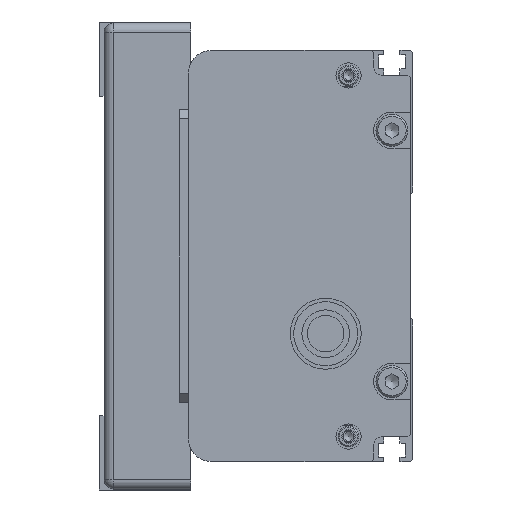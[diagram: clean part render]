
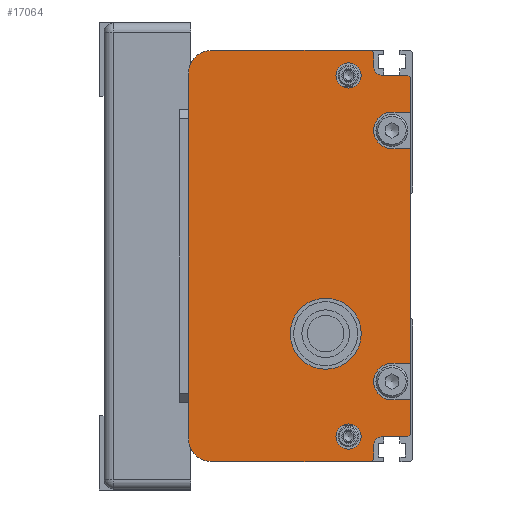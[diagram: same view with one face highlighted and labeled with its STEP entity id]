
A CAD part, left-side view. The second image highlights one B-rep face of the part: STEP entity #17064.
In plain terms, the highlighted planar face has unit normal (-1, 0, 0) as drawn and (0, 0, -1) by its records, which use the part's own axes.
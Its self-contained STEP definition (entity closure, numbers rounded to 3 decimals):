
#1088=FACE_BOUND('',#2518,.T.);
#1089=FACE_BOUND('',#2519,.T.);
#1090=FACE_BOUND('',#2520,.T.);
#1436=FACE_OUTER_BOUND('',#2517,.T.);
#2517=EDGE_LOOP('',(#11869,#11870,#11871,#11872,#11873,#11874,#11875,#11876,
#11877,#11878,#11879,#11880,#11881,#11882,#11883,#11884,#11885,#11886,#11887,
#11888,#11889,#11890,#11891,#11892));
#2518=EDGE_LOOP('',(#11893));
#2519=EDGE_LOOP('',(#11894));
#2520=EDGE_LOOP('',(#11895));
#3819=LINE('',#24749,#5317);
#3845=LINE('',#24816,#5343);
#3847=LINE('',#24821,#5345);
#3848=LINE('',#24823,#5346);
#3849=LINE('',#24826,#5347);
#3850=LINE('',#24828,#5348);
#3851=LINE('',#24830,#5349);
#3852=LINE('',#24834,#5350);
#3853=LINE('',#24836,#5351);
#3854=LINE('',#24838,#5352);
#3855=LINE('',#24842,#5353);
#3856=LINE('',#24844,#5354);
#3857=LINE('',#24846,#5355);
#3858=LINE('',#24848,#5356);
#3859=LINE('',#24852,#5357);
#3860=LINE('',#24854,#5358);
#3861=LINE('',#24855,#5359);
#3862=LINE('',#24856,#5360);
#5317=VECTOR('',#20112,80.);
#5343=VECTOR('',#20164,0.707);
#5345=VECTOR('',#20168,0.707);
#5346=VECTOR('',#20169,3.);
#5347=VECTOR('',#20172,5.5);
#5348=VECTOR('',#20173,7.5);
#5349=VECTOR('',#20174,4.);
#5350=VECTOR('',#20177,4.);
#5351=VECTOR('',#20178,47.);
#5352=VECTOR('',#20179,4.);
#5353=VECTOR('',#20182,4.);
#5354=VECTOR('',#20183,7.5);
#5355=VECTOR('',#20184,0.707);
#5356=VECTOR('',#20185,5.5);
#5357=VECTOR('',#20188,3.);
#5358=VECTOR('',#20189,0.707);
#5359=VECTOR('',#20190,35.);
#5360=VECTOR('',#20191,35.);
#6714=CIRCLE('',#18234,5.);
#6717=CIRCLE('',#18241,5.);
#6719=CIRCLE('',#18247,2.);
#6720=CIRCLE('',#18248,4.);
#6721=CIRCLE('',#18249,4.);
#6722=CIRCLE('',#18250,2.);
#6723=CIRCLE('',#18251,7.769);
#6724=CIRCLE('',#18252,2.75);
#6725=CIRCLE('',#18253,2.75);
#7329=VERTEX_POINT('',#24746);
#7330=VERTEX_POINT('',#24748);
#7331=VERTEX_POINT('',#24752);
#7334=VERTEX_POINT('',#24763);
#7357=VERTEX_POINT('',#24813);
#7358=VERTEX_POINT('',#24815);
#7359=VERTEX_POINT('',#24819);
#7360=VERTEX_POINT('',#24820);
#7361=VERTEX_POINT('',#24822);
#7362=VERTEX_POINT('',#24824);
#7363=VERTEX_POINT('',#24827);
#7364=VERTEX_POINT('',#24829);
#7365=VERTEX_POINT('',#24831);
#7366=VERTEX_POINT('',#24833);
#7367=VERTEX_POINT('',#24835);
#7368=VERTEX_POINT('',#24837);
#7369=VERTEX_POINT('',#24839);
#7370=VERTEX_POINT('',#24841);
#7371=VERTEX_POINT('',#24843);
#7372=VERTEX_POINT('',#24845);
#7373=VERTEX_POINT('',#24847);
#7374=VERTEX_POINT('',#24849);
#7375=VERTEX_POINT('',#24851);
#7376=VERTEX_POINT('',#24853);
#7377=VERTEX_POINT('',#24857);
#7378=VERTEX_POINT('',#24859);
#7379=VERTEX_POINT('',#24861);
#9123=EDGE_CURVE('',#7329,#7330,#3819,.T.);
#9125=EDGE_CURVE('',#7330,#7331,#6714,.T.);
#9130=EDGE_CURVE('',#7334,#7329,#6717,.T.);
#9154=EDGE_CURVE('',#7357,#7358,#3845,.T.);
#9156=EDGE_CURVE('',#7359,#7360,#3847,.T.);
#9157=EDGE_CURVE('',#7359,#7361,#3848,.T.);
#9158=EDGE_CURVE('',#7361,#7362,#6719,.T.);
#9159=EDGE_CURVE('',#7362,#7358,#3849,.T.);
#9160=EDGE_CURVE('',#7363,#7357,#3850,.T.);
#9161=EDGE_CURVE('',#7363,#7364,#3851,.T.);
#9162=EDGE_CURVE('',#7364,#7365,#6720,.T.);
#9163=EDGE_CURVE('',#7365,#7366,#3852,.T.);
#9164=EDGE_CURVE('',#7367,#7366,#3853,.T.);
#9165=EDGE_CURVE('',#7367,#7368,#3854,.T.);
#9166=EDGE_CURVE('',#7368,#7369,#6721,.T.);
#9167=EDGE_CURVE('',#7369,#7370,#3855,.T.);
#9168=EDGE_CURVE('',#7371,#7370,#3856,.T.);
#9169=EDGE_CURVE('',#7372,#7371,#3857,.T.);
#9170=EDGE_CURVE('',#7372,#7373,#3858,.T.);
#9171=EDGE_CURVE('',#7373,#7374,#6722,.T.);
#9172=EDGE_CURVE('',#7374,#7375,#3859,.T.);
#9173=EDGE_CURVE('',#7376,#7375,#3860,.T.);
#9174=EDGE_CURVE('',#7331,#7376,#3861,.T.);
#9175=EDGE_CURVE('',#7360,#7334,#3862,.T.);
#9176=EDGE_CURVE('',#7377,#7377,#6723,.T.);
#9177=EDGE_CURVE('',#7378,#7378,#6724,.T.);
#9178=EDGE_CURVE('',#7379,#7379,#6725,.T.);
#11869=ORIENTED_EDGE('',*,*,#9156,.F.);
#11870=ORIENTED_EDGE('',*,*,#9157,.T.);
#11871=ORIENTED_EDGE('',*,*,#9158,.T.);
#11872=ORIENTED_EDGE('',*,*,#9159,.T.);
#11873=ORIENTED_EDGE('',*,*,#9154,.F.);
#11874=ORIENTED_EDGE('',*,*,#9160,.F.);
#11875=ORIENTED_EDGE('',*,*,#9161,.T.);
#11876=ORIENTED_EDGE('',*,*,#9162,.T.);
#11877=ORIENTED_EDGE('',*,*,#9163,.T.);
#11878=ORIENTED_EDGE('',*,*,#9164,.F.);
#11879=ORIENTED_EDGE('',*,*,#9165,.T.);
#11880=ORIENTED_EDGE('',*,*,#9166,.T.);
#11881=ORIENTED_EDGE('',*,*,#9167,.T.);
#11882=ORIENTED_EDGE('',*,*,#9168,.F.);
#11883=ORIENTED_EDGE('',*,*,#9169,.F.);
#11884=ORIENTED_EDGE('',*,*,#9170,.T.);
#11885=ORIENTED_EDGE('',*,*,#9171,.T.);
#11886=ORIENTED_EDGE('',*,*,#9172,.T.);
#11887=ORIENTED_EDGE('',*,*,#9173,.F.);
#11888=ORIENTED_EDGE('',*,*,#9174,.F.);
#11889=ORIENTED_EDGE('',*,*,#9125,.F.);
#11890=ORIENTED_EDGE('',*,*,#9123,.F.);
#11891=ORIENTED_EDGE('',*,*,#9130,.F.);
#11892=ORIENTED_EDGE('',*,*,#9175,.F.);
#11893=ORIENTED_EDGE('',*,*,#9176,.T.);
#11894=ORIENTED_EDGE('',*,*,#9177,.T.);
#11895=ORIENTED_EDGE('',*,*,#9178,.T.);
#16448=PLANE('',#18246);
#17064=ADVANCED_FACE('',(#1436,#1088,#1089,#1090),#16448,.F.);
#18234=AXIS2_PLACEMENT_3D('',#24753,#20116,#20117);
#18241=AXIS2_PLACEMENT_3D('',#24765,#20132,#20133);
#18246=AXIS2_PLACEMENT_3D('',#24818,#20166,#20167);
#18247=AXIS2_PLACEMENT_3D('',#24825,#20170,#20171);
#18248=AXIS2_PLACEMENT_3D('',#24832,#20175,#20176);
#18249=AXIS2_PLACEMENT_3D('',#24840,#20180,#20181);
#18250=AXIS2_PLACEMENT_3D('',#24850,#20186,#20187);
#18251=AXIS2_PLACEMENT_3D('',#24858,#20192,#20193);
#18252=AXIS2_PLACEMENT_3D('',#24860,#20194,#20195);
#18253=AXIS2_PLACEMENT_3D('',#24862,#20196,#20197);
#20112=DIRECTION('',(-1.,0.,0.));
#20116=DIRECTION('center_axis',(0.,0.,1.));
#20117=DIRECTION('ref_axis',(0.,1.,0.));
#20132=DIRECTION('center_axis',(0.,0.,1.));
#20133=DIRECTION('ref_axis',(1.,0.,0.));
#20164=DIRECTION('',(0.707,0.707,0.));
#20166=DIRECTION('center_axis',(0.,0.,1.));
#20167=DIRECTION('ref_axis',(1.,0.,0.));
#20168=DIRECTION('',(0.707,0.707,0.));
#20169=DIRECTION('',(-1.,0.,0.));
#20170=DIRECTION('center_axis',(0.,0.,1.));
#20171=DIRECTION('ref_axis',(0.,1.,0.));
#20172=DIRECTION('',(0.,-1.,0.));
#20173=DIRECTION('',(1.,0.,0.));
#20174=DIRECTION('',(0.,1.,0.));
#20175=DIRECTION('center_axis',(0.,0.,1.));
#20176=DIRECTION('ref_axis',(-1.,0.,0.));
#20177=DIRECTION('',(0.,-1.,0.));
#20178=DIRECTION('',(1.,0.,0.));
#20179=DIRECTION('',(0.,1.,0.));
#20180=DIRECTION('center_axis',(0.,0.,1.));
#20181=DIRECTION('ref_axis',(-1.,0.,0.));
#20182=DIRECTION('',(0.,-1.,0.));
#20183=DIRECTION('',(1.,0.,0.));
#20184=DIRECTION('',(0.707,-0.707,0.));
#20185=DIRECTION('',(0.,1.,0.));
#20186=DIRECTION('center_axis',(0.,0.,1.));
#20187=DIRECTION('ref_axis',(-1.,0.,0.));
#20188=DIRECTION('',(-1.,0.,0.));
#20189=DIRECTION('',(0.707,-0.707,0.));
#20190=DIRECTION('',(0.,-1.,0.));
#20191=DIRECTION('',(0.,1.,0.));
#20192=DIRECTION('center_axis',(0.,0.,1.));
#20193=DIRECTION('ref_axis',(0.766,-0.643,0.));
#20194=DIRECTION('center_axis',(0.,0.,1.));
#20195=DIRECTION('ref_axis',(-1.,0.,0.));
#20196=DIRECTION('center_axis',(0.,0.,1.));
#20197=DIRECTION('ref_axis',(-1.,0.,0.));
#24746=CARTESIAN_POINT('',(37.988,51.846,-897.249));
#24748=CARTESIAN_POINT('',(-42.012,51.846,-897.249));
#24749=CARTESIAN_POINT('',(37.988,51.846,-897.249));
#24752=CARTESIAN_POINT('',(-47.012,46.846,-897.249));
#24753=CARTESIAN_POINT('Origin',(-42.012,46.846,-897.249));
#24763=CARTESIAN_POINT('',(42.988,46.846,-897.249));
#24765=CARTESIAN_POINT('Origin',(37.988,46.846,-897.249));
#24813=CARTESIAN_POINT('',(36.988,3.346,-897.249));
#24815=CARTESIAN_POINT('',(37.488,3.846,-897.249));
#24816=CARTESIAN_POINT('',(36.988,3.346,-897.249));
#24818=CARTESIAN_POINT('Origin',(-2.012,27.249,-897.249));
#24819=CARTESIAN_POINT('',(42.488,11.346,-897.249));
#24820=CARTESIAN_POINT('',(42.988,11.846,-897.249));
#24821=CARTESIAN_POINT('',(42.488,11.346,-897.249));
#24822=CARTESIAN_POINT('',(39.488,11.346,-897.249));
#24823=CARTESIAN_POINT('',(42.488,11.346,-897.249));
#24824=CARTESIAN_POINT('',(37.488,9.346,-897.249));
#24825=CARTESIAN_POINT('Origin',(39.488,9.346,-897.249));
#24826=CARTESIAN_POINT('',(37.488,9.346,-897.249));
#24827=CARTESIAN_POINT('',(29.488,3.346,-897.249));
#24828=CARTESIAN_POINT('',(29.488,3.346,-897.249));
#24829=CARTESIAN_POINT('',(29.488,7.346,-897.249));
#24830=CARTESIAN_POINT('',(29.488,3.346,-897.249));
#24831=CARTESIAN_POINT('',(21.488,7.346,-897.249));
#24832=CARTESIAN_POINT('Origin',(25.488,7.346,-897.249));
#24833=CARTESIAN_POINT('',(21.488,3.346,-897.249));
#24834=CARTESIAN_POINT('',(21.488,7.346,-897.249));
#24835=CARTESIAN_POINT('',(-25.512,3.346,-897.249));
#24836=CARTESIAN_POINT('',(-25.512,3.346,-897.249));
#24837=CARTESIAN_POINT('',(-25.512,7.346,-897.249));
#24838=CARTESIAN_POINT('',(-25.512,3.346,-897.249));
#24839=CARTESIAN_POINT('',(-33.512,7.346,-897.249));
#24840=CARTESIAN_POINT('Origin',(-29.512,7.346,-897.249));
#24841=CARTESIAN_POINT('',(-33.512,3.346,-897.249));
#24842=CARTESIAN_POINT('',(-33.512,7.346,-897.249));
#24843=CARTESIAN_POINT('',(-41.012,3.346,-897.249));
#24844=CARTESIAN_POINT('',(-41.012,3.346,-897.249));
#24845=CARTESIAN_POINT('',(-41.512,3.846,-897.249));
#24846=CARTESIAN_POINT('',(-41.512,3.846,-897.249));
#24847=CARTESIAN_POINT('',(-41.512,9.346,-897.249));
#24848=CARTESIAN_POINT('',(-41.512,3.846,-897.249));
#24849=CARTESIAN_POINT('',(-43.512,11.346,-897.249));
#24850=CARTESIAN_POINT('Origin',(-43.512,9.346,-897.249));
#24851=CARTESIAN_POINT('',(-46.512,11.346,-897.249));
#24852=CARTESIAN_POINT('',(-43.512,11.346,-897.249));
#24853=CARTESIAN_POINT('',(-47.012,11.846,-897.249));
#24854=CARTESIAN_POINT('',(-47.012,11.846,-897.249));
#24855=CARTESIAN_POINT('',(-47.012,46.846,-897.249));
#24856=CARTESIAN_POINT('',(42.988,11.846,-897.249));
#24857=CARTESIAN_POINT('',(20.939,16.853,-897.249));
#24858=CARTESIAN_POINT('Origin',(14.988,21.846,-897.249));
#24859=CARTESIAN_POINT('',(34.738,16.846,-897.249));
#24860=CARTESIAN_POINT('Origin',(37.488,16.846,-897.249));
#24861=CARTESIAN_POINT('',(-44.262,16.846,-897.249));
#24862=CARTESIAN_POINT('Origin',(-41.512,16.846,-897.249));
